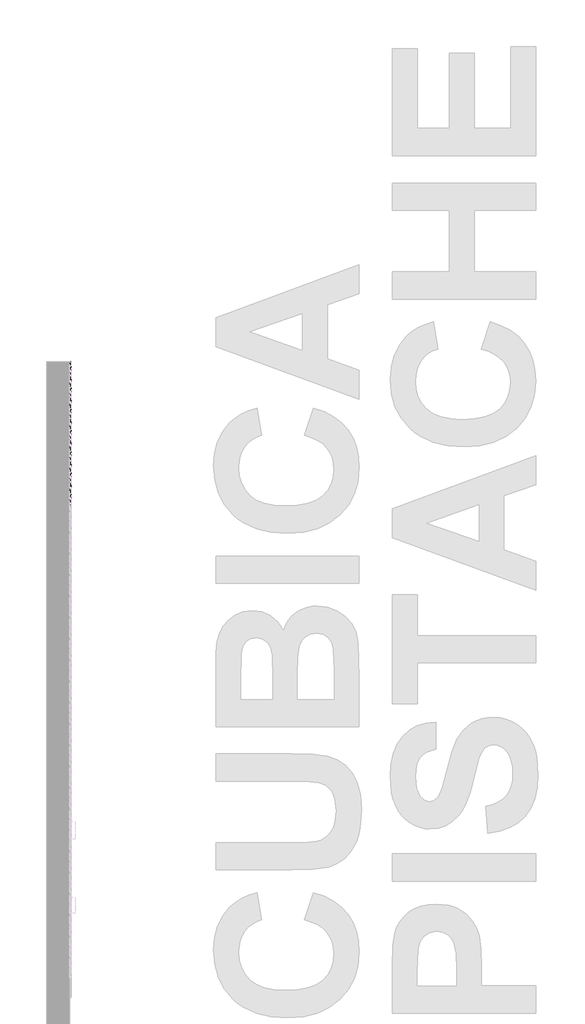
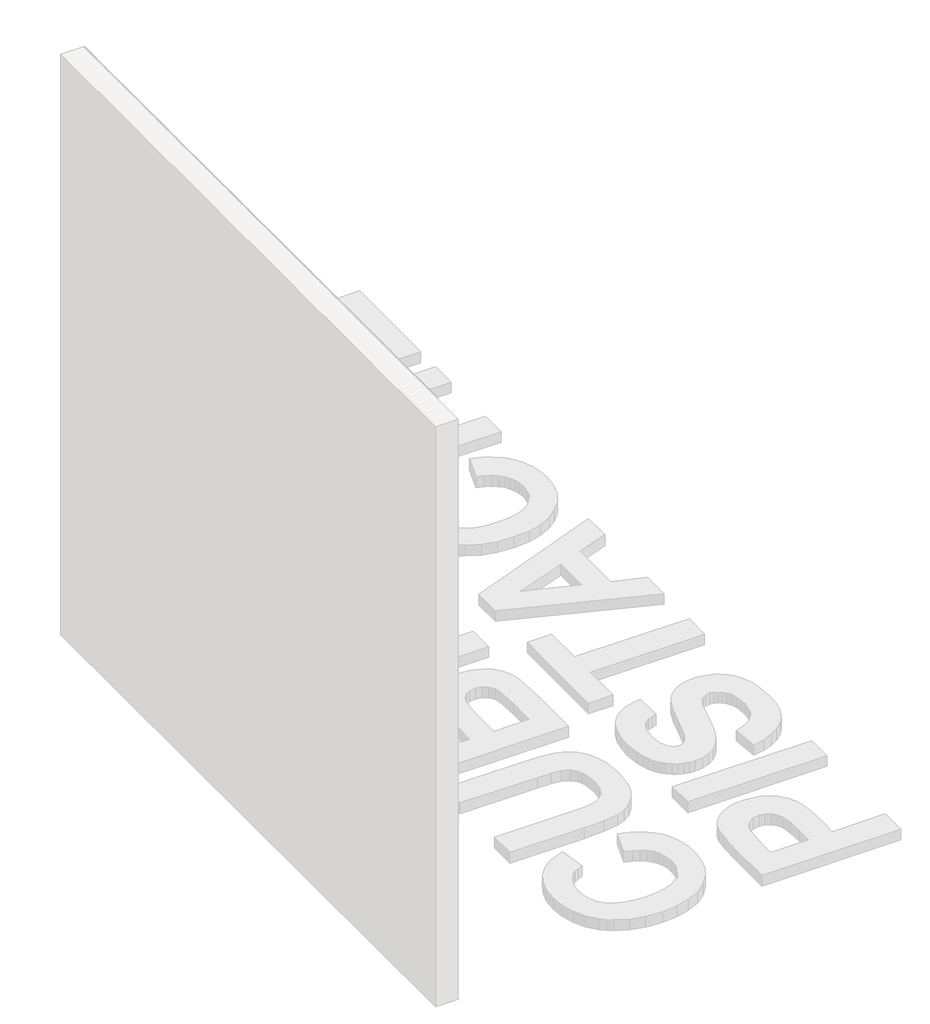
# One storey, part 94 of 121: 143 proxies.
"""IFC4 building model written with IfcOpenShell, lengths in millimetres."""

from ifc_helpers import new_model, si_unit, origin, place, context, project, spatial, transform, mapped, element, save
from components import generic_models_b2b2c5c1, generic_models_9bf73f6f, generic_models_5d175859, generic_models_336a48c1, generic_models_3c04e8e5, generic_models_0bb79e7c, generic_models_61989c10

model = new_model("IFC4")

# Units and contexts
model_context = context("Model", 3, world=origin())
ifc_project = project(units=[si_unit("LENGTHUNIT", "METRE", prefix="MILLI")], contexts=[model_context])

# Site, building, storey
site = spatial("IfcSite", under=ifc_project)
building = spatial("IfcBuilding", under=site)
storey = spatial("IfcBuildingStorey", under=building, Name="PORTOBELLO - SHOWROOM", Elevation=0.0)

# Proxies
placement = place(None, origin())
generic_models_shape = generic_models_b2b2c5c1(model_context)
element("IfcBuildingElementProxy", 1, Name="PBSHOP - CUBICA PISTACHE 4,8X8,3 : CUBICA PISTACHE - POSIÇÃO 01", ObjectType="PBSHOP - CUBICA PISTACHE 4,8X8,3 : CUBICA PISTACHE - POSIÇÃO 01", at=placement, inside=storey, context=model_context, shape_type="MappedRepresentation", body=[
    mapped(generic_models_shape, transform((150369.5341846, 15022.109842, 907.7031889), x_axis=(0.0, 1.0, 0.0), y_axis=(0.0, 0.0, 1.0), z_axis=(1.0, 0.0, 0.0))),
])
element("IfcBuildingElementProxy", 2, Name="PBSHOP - CUBICA PISTACHE 4,8X8,3 : CUBICA PISTACHE - POSIÇÃO 01", ObjectType="PBSHOP - CUBICA PISTACHE 4,8X8,3 : CUBICA PISTACHE - POSIÇÃO 01", at=placement, inside=storey, context=model_context, shape_type="MappedRepresentation", body=[
    mapped(generic_models_shape, transform((150369.5341846, 15112.9491113, 907.7031889), x_axis=(0.0, 1.0, 0.0), y_axis=(0.0, 0.0, 1.0), z_axis=(1.0, 0.0, 0.0))),
])
element("IfcBuildingElementProxy", 3, Name="PBSHOP - CUBICA PISTACHE 4,8X8,3 : CUBICA PISTACHE - POSIÇÃO 01", ObjectType="PBSHOP - CUBICA PISTACHE 4,8X8,3 : CUBICA PISTACHE - POSIÇÃO 01", at=placement, inside=storey, context=model_context, shape_type="MappedRepresentation", body=[
    mapped(generic_models_shape, transform((150369.5341846, 15203.7883805, 907.7031889), x_axis=(0.0, 1.0, 0.0), y_axis=(0.0, 0.0, 1.0), z_axis=(1.0, 0.0, 0.0))),
])
element("IfcBuildingElementProxy", 4, Name="PBSHOP - CUBICA PISTACHE 4,8X8,3 : CUBICA PISTACHE - POSIÇÃO 01", ObjectType="PBSHOP - CUBICA PISTACHE 4,8X8,3 : CUBICA PISTACHE - POSIÇÃO 01", at=placement, inside=storey, context=model_context, shape_type="MappedRepresentation", body=[
    mapped(generic_models_shape, transform((150369.5341846, 15294.6276498, 907.7031889), x_axis=(0.0, 1.0, 0.0), y_axis=(0.0, 0.0, 1.0), z_axis=(1.0, 0.0, 0.0))),
])
element("IfcBuildingElementProxy", 5, Name="PBSHOP - CUBICA PISTACHE 4,8X8,3 : CUBICA PISTACHE - POSIÇÃO 01", ObjectType="PBSHOP - CUBICA PISTACHE 4,8X8,3 : CUBICA PISTACHE - POSIÇÃO 01", at=placement, inside=storey, context=model_context, shape_type="MappedRepresentation", body=[
    mapped(generic_models_shape, transform((150369.5341846, 15385.466919, 907.7031889), x_axis=(0.0, 1.0, 0.0), y_axis=(0.0, 0.0, 1.0), z_axis=(1.0, 0.0, 0.0))),
])
element("IfcBuildingElementProxy", 6, Name="PBSHOP - CUBICA PISTACHE 4,8X8,3 : CUBICA PISTACHE - POSIÇÃO 01", ObjectType="PBSHOP - CUBICA PISTACHE 4,8X8,3 : CUBICA PISTACHE - POSIÇÃO 01", at=placement, inside=storey, context=model_context, shape_type="MappedRepresentation", body=[
    mapped(generic_models_shape, transform((150369.5341846, 15476.3061883, 907.7031889), x_axis=(0.0, 1.0, 0.0), y_axis=(0.0, 0.0, 1.0), z_axis=(1.0, 0.0, 0.0))),
])
element("IfcBuildingElementProxy", 7, Name="PBSHOP - CUBICA PISTACHE 4,8X8,3 : CUBICA PISTACHE - POSIÇÃO 01", ObjectType="PBSHOP - CUBICA PISTACHE 4,8X8,3 : CUBICA PISTACHE - POSIÇÃO 01", at=placement, inside=storey, context=model_context, shape_type="MappedRepresentation", body=[
    mapped(generic_models_shape, transform((150369.5341846, 15567.1454575, 907.7031889), x_axis=(0.0, 1.0, 0.0), y_axis=(0.0, 0.0, 1.0), z_axis=(1.0, 0.0, 0.0))),
])
element("IfcBuildingElementProxy", 8, Name="PBSHOP - CUBICA PISTACHE 4,8X8,3 : CUBICA PISTACHE - POSIÇÃO 01", ObjectType="PBSHOP - CUBICA PISTACHE 4,8X8,3 : CUBICA PISTACHE - POSIÇÃO 01", at=placement, inside=storey, context=model_context, shape_type="MappedRepresentation", body=[
    mapped(generic_models_shape, transform((150369.5341846, 15067.5294767, 986.6378273), x_axis=(0.0, 1.0, 0.0), y_axis=(0.0, 0.0, 1.0), z_axis=(1.0, 0.0, 0.0))),
])
element("IfcBuildingElementProxy", 9, Name="PBSHOP - CUBICA PISTACHE 4,8X8,3 : CUBICA PISTACHE - POSIÇÃO 01", ObjectType="PBSHOP - CUBICA PISTACHE 4,8X8,3 : CUBICA PISTACHE - POSIÇÃO 01", at=placement, inside=storey, context=model_context, shape_type="MappedRepresentation", body=[
    mapped(generic_models_shape, transform((150369.5341846, 15158.3687459, 986.6378273), x_axis=(0.0, 1.0, 0.0), y_axis=(0.0, 0.0, 1.0), z_axis=(1.0, 0.0, 0.0))),
])
element("IfcBuildingElementProxy", 10, Name="PBSHOP - CUBICA PISTACHE 4,8X8,3 : CUBICA PISTACHE - POSIÇÃO 01", ObjectType="PBSHOP - CUBICA PISTACHE 4,8X8,3 : CUBICA PISTACHE - POSIÇÃO 01", at=placement, inside=storey, context=model_context, shape_type="MappedRepresentation", body=[
    mapped(generic_models_shape, transform((150369.5341846, 15249.2080152, 986.6378273), x_axis=(0.0, 1.0, 0.0), y_axis=(0.0, 0.0, 1.0), z_axis=(1.0, 0.0, 0.0))),
])
element("IfcBuildingElementProxy", 11, Name="PBSHOP - CUBICA PISTACHE 4,8X8,3 : CUBICA PISTACHE - POSIÇÃO 01", ObjectType="PBSHOP - CUBICA PISTACHE 4,8X8,3 : CUBICA PISTACHE - POSIÇÃO 01", at=placement, inside=storey, context=model_context, shape_type="MappedRepresentation", body=[
    mapped(generic_models_shape, transform((150369.5341846, 15340.0472844, 986.6378273), x_axis=(0.0, 1.0, 0.0), y_axis=(0.0, 0.0, 1.0), z_axis=(1.0, 0.0, 0.0))),
])
element("IfcBuildingElementProxy", 12, Name="PBSHOP - CUBICA PISTACHE 4,8X8,3 : CUBICA PISTACHE - POSIÇÃO 01", ObjectType="PBSHOP - CUBICA PISTACHE 4,8X8,3 : CUBICA PISTACHE - POSIÇÃO 01", at=placement, inside=storey, context=model_context, shape_type="MappedRepresentation", body=[
    mapped(generic_models_shape, transform((150369.5341846, 15430.8865536, 986.6378273), x_axis=(0.0, 1.0, 0.0), y_axis=(0.0, 0.0, 1.0), z_axis=(1.0, 0.0, 0.0))),
])
element("IfcBuildingElementProxy", 13, Name="PBSHOP - CUBICA PISTACHE 4,8X8,3 : CUBICA PISTACHE - POSIÇÃO 01", ObjectType="PBSHOP - CUBICA PISTACHE 4,8X8,3 : CUBICA PISTACHE - POSIÇÃO 01", at=placement, inside=storey, context=model_context, shape_type="MappedRepresentation", body=[
    mapped(generic_models_shape, transform((150369.5341846, 15521.7258229, 986.6378273), x_axis=(0.0, 1.0, 0.0), y_axis=(0.0, 0.0, 1.0), z_axis=(1.0, 0.0, 0.0))),
])
element("IfcBuildingElementProxy", 14, Name="PBSHOP - CUBICA PISTACHE 4,8X8,3 : CUBICA PISTACHE - POSIÇÃO 01", ObjectType="PBSHOP - CUBICA PISTACHE 4,8X8,3 : CUBICA PISTACHE - POSIÇÃO 01", at=placement, inside=storey, context=model_context, shape_type="MappedRepresentation", body=[
    mapped(generic_models_shape, transform((150369.5341846, 15022.109842, 1065.5724657), x_axis=(0.0, 1.0, 0.0), y_axis=(0.0, 0.0, 1.0), z_axis=(1.0, 0.0, 0.0))),
])
element("IfcBuildingElementProxy", 15, Name="PBSHOP - CUBICA PISTACHE 4,8X8,3 : CUBICA PISTACHE - POSIÇÃO 01", ObjectType="PBSHOP - CUBICA PISTACHE 4,8X8,3 : CUBICA PISTACHE - POSIÇÃO 01", at=placement, inside=storey, context=model_context, shape_type="MappedRepresentation", body=[
    mapped(generic_models_shape, transform((150369.5341846, 15112.9491113, 1065.5724657), x_axis=(0.0, 1.0, 0.0), y_axis=(0.0, 0.0, 1.0), z_axis=(1.0, 0.0, 0.0))),
])
element("IfcBuildingElementProxy", 16, Name="PBSHOP - CUBICA PISTACHE 4,8X8,3 : CUBICA PISTACHE - POSIÇÃO 01", ObjectType="PBSHOP - CUBICA PISTACHE 4,8X8,3 : CUBICA PISTACHE - POSIÇÃO 01", at=placement, inside=storey, context=model_context, shape_type="MappedRepresentation", body=[
    mapped(generic_models_shape, transform((150369.5341846, 15203.7883805, 1065.5724657), x_axis=(0.0, 1.0, 0.0), y_axis=(0.0, 0.0, 1.0), z_axis=(1.0, 0.0, 0.0))),
])
element("IfcBuildingElementProxy", 17, Name="PBSHOP - CUBICA PISTACHE 4,8X8,3 : CUBICA PISTACHE - POSIÇÃO 01", ObjectType="PBSHOP - CUBICA PISTACHE 4,8X8,3 : CUBICA PISTACHE - POSIÇÃO 01", at=placement, inside=storey, context=model_context, shape_type="MappedRepresentation", body=[
    mapped(generic_models_shape, transform((150369.5341846, 15294.6276498, 1065.5724657), x_axis=(0.0, 1.0, 0.0), y_axis=(0.0, 0.0, 1.0), z_axis=(1.0, 0.0, 0.0))),
])
element("IfcBuildingElementProxy", 18, Name="PBSHOP - CUBICA PISTACHE 4,8X8,3 : CUBICA PISTACHE - POSIÇÃO 01", ObjectType="PBSHOP - CUBICA PISTACHE 4,8X8,3 : CUBICA PISTACHE - POSIÇÃO 01", at=placement, inside=storey, context=model_context, shape_type="MappedRepresentation", body=[
    mapped(generic_models_shape, transform((150369.5341846, 15385.466919, 1065.5724657), x_axis=(0.0, 1.0, 0.0), y_axis=(0.0, 0.0, 1.0), z_axis=(1.0, 0.0, 0.0))),
])
element("IfcBuildingElementProxy", 19, Name="PBSHOP - CUBICA PISTACHE 4,8X8,3 : CUBICA PISTACHE - POSIÇÃO 01", ObjectType="PBSHOP - CUBICA PISTACHE 4,8X8,3 : CUBICA PISTACHE - POSIÇÃO 01", at=placement, inside=storey, context=model_context, shape_type="MappedRepresentation", body=[
    mapped(generic_models_shape, transform((150369.5341846, 15476.3061883, 1065.5724657), x_axis=(0.0, 1.0, 0.0), y_axis=(0.0, 0.0, 1.0), z_axis=(1.0, 0.0, 0.0))),
])
element("IfcBuildingElementProxy", 20, Name="PBSHOP - CUBICA PISTACHE 4,8X8,3 : CUBICA PISTACHE - POSIÇÃO 01", ObjectType="PBSHOP - CUBICA PISTACHE 4,8X8,3 : CUBICA PISTACHE - POSIÇÃO 01", at=placement, inside=storey, context=model_context, shape_type="MappedRepresentation", body=[
    mapped(generic_models_shape, transform((150369.5341846, 15567.1454575, 1065.5724657), x_axis=(0.0, 1.0, 0.0), y_axis=(0.0, 0.0, 1.0), z_axis=(1.0, 0.0, 0.0))),
])
element("IfcBuildingElementProxy", 21, Name="PBSHOP - CUBICA PISTACHE 4,8X8,3 : CUBICA PISTACHE - POSIÇÃO 01", ObjectType="PBSHOP - CUBICA PISTACHE 4,8X8,3 : CUBICA PISTACHE - POSIÇÃO 01", at=placement, inside=storey, context=model_context, shape_type="MappedRepresentation", body=[
    mapped(generic_models_shape, transform((150369.5341846, 15067.5294767, 1144.507104), x_axis=(0.0, 1.0, 0.0), y_axis=(0.0, 0.0, 1.0), z_axis=(1.0, 0.0, 0.0))),
])
element("IfcBuildingElementProxy", 22, Name="PBSHOP - CUBICA PISTACHE 4,8X8,3 : CUBICA PISTACHE - POSIÇÃO 01", ObjectType="PBSHOP - CUBICA PISTACHE 4,8X8,3 : CUBICA PISTACHE - POSIÇÃO 01", at=placement, inside=storey, context=model_context, shape_type="MappedRepresentation", body=[
    mapped(generic_models_shape, transform((150369.5341846, 15158.3687459, 1144.507104), x_axis=(0.0, 1.0, 0.0), y_axis=(0.0, 0.0, 1.0), z_axis=(1.0, 0.0, 0.0))),
])
element("IfcBuildingElementProxy", 23, Name="PBSHOP - CUBICA PISTACHE 4,8X8,3 : CUBICA PISTACHE - POSIÇÃO 01", ObjectType="PBSHOP - CUBICA PISTACHE 4,8X8,3 : CUBICA PISTACHE - POSIÇÃO 01", at=placement, inside=storey, context=model_context, shape_type="MappedRepresentation", body=[
    mapped(generic_models_shape, transform((150369.5341846, 15249.2080152, 1144.507104), x_axis=(0.0, 1.0, 0.0), y_axis=(0.0, 0.0, 1.0), z_axis=(1.0, 0.0, 0.0))),
])
element("IfcBuildingElementProxy", 24, Name="PBSHOP - CUBICA PISTACHE 4,8X8,3 : CUBICA PISTACHE - POSIÇÃO 01", ObjectType="PBSHOP - CUBICA PISTACHE 4,8X8,3 : CUBICA PISTACHE - POSIÇÃO 01", at=placement, inside=storey, context=model_context, shape_type="MappedRepresentation", body=[
    mapped(generic_models_shape, transform((150369.5341846, 15340.0472844, 1144.507104), x_axis=(0.0, 1.0, 0.0), y_axis=(0.0, 0.0, 1.0), z_axis=(1.0, 0.0, 0.0))),
])
element("IfcBuildingElementProxy", 25, Name="PBSHOP - CUBICA PISTACHE 4,8X8,3 : CUBICA PISTACHE - POSIÇÃO 01", ObjectType="PBSHOP - CUBICA PISTACHE 4,8X8,3 : CUBICA PISTACHE - POSIÇÃO 01", at=placement, inside=storey, context=model_context, shape_type="MappedRepresentation", body=[
    mapped(generic_models_shape, transform((150369.5341846, 15430.8865536, 1144.507104), x_axis=(0.0, 1.0, 0.0), y_axis=(0.0, 0.0, 1.0), z_axis=(1.0, 0.0, 0.0))),
])
element("IfcBuildingElementProxy", 26, Name="PBSHOP - CUBICA PISTACHE 4,8X8,3 : CUBICA PISTACHE - POSIÇÃO 01", ObjectType="PBSHOP - CUBICA PISTACHE 4,8X8,3 : CUBICA PISTACHE - POSIÇÃO 01", at=placement, inside=storey, context=model_context, shape_type="MappedRepresentation", body=[
    mapped(generic_models_shape, transform((150369.5341846, 15521.7258229, 1144.507104), x_axis=(0.0, 1.0, 0.0), y_axis=(0.0, 0.0, 1.0), z_axis=(1.0, 0.0, 0.0))),
])
element("IfcBuildingElementProxy", 27, Name="PBSHOP - CUBICA PISTACHE 4,8X8,3 : CUBICA PISTACHE - POSIÇÃO 01", ObjectType="PBSHOP - CUBICA PISTACHE 4,8X8,3 : CUBICA PISTACHE - POSIÇÃO 01", at=placement, inside=storey, context=model_context, shape_type="MappedRepresentation", body=[
    mapped(generic_models_shape, transform((150369.5341846, 15022.109842, 1223.4417424), x_axis=(0.0, 1.0, 0.0), y_axis=(0.0, 0.0, 1.0), z_axis=(1.0, 0.0, 0.0))),
])
element("IfcBuildingElementProxy", 28, Name="PBSHOP - CUBICA PISTACHE 4,8X8,3 : CUBICA PISTACHE - POSIÇÃO 01", ObjectType="PBSHOP - CUBICA PISTACHE 4,8X8,3 : CUBICA PISTACHE - POSIÇÃO 01", at=placement, inside=storey, context=model_context, shape_type="MappedRepresentation", body=[
    mapped(generic_models_shape, transform((150369.5341846, 15112.9491113, 1223.4417424), x_axis=(0.0, 1.0, 0.0), y_axis=(0.0, 0.0, 1.0), z_axis=(1.0, 0.0, 0.0))),
])
element("IfcBuildingElementProxy", 29, Name="PBSHOP - CUBICA PISTACHE 4,8X8,3 : CUBICA PISTACHE - POSIÇÃO 01", ObjectType="PBSHOP - CUBICA PISTACHE 4,8X8,3 : CUBICA PISTACHE - POSIÇÃO 01", at=placement, inside=storey, context=model_context, shape_type="MappedRepresentation", body=[
    mapped(generic_models_shape, transform((150369.5341846, 15203.7883805, 1223.4417424), x_axis=(0.0, 1.0, 0.0), y_axis=(0.0, 0.0, 1.0), z_axis=(1.0, 0.0, 0.0))),
])
element("IfcBuildingElementProxy", 30, Name="PBSHOP - CUBICA PISTACHE 4,8X8,3 : CUBICA PISTACHE - POSIÇÃO 01", ObjectType="PBSHOP - CUBICA PISTACHE 4,8X8,3 : CUBICA PISTACHE - POSIÇÃO 01", at=placement, inside=storey, context=model_context, shape_type="MappedRepresentation", body=[
    mapped(generic_models_shape, transform((150369.5341846, 15294.6276498, 1223.4417424), x_axis=(0.0, 1.0, 0.0), y_axis=(0.0, 0.0, 1.0), z_axis=(1.0, 0.0, 0.0))),
])
element("IfcBuildingElementProxy", 31, Name="PBSHOP - CUBICA PISTACHE 4,8X8,3 : CUBICA PISTACHE - POSIÇÃO 01", ObjectType="PBSHOP - CUBICA PISTACHE 4,8X8,3 : CUBICA PISTACHE - POSIÇÃO 01", at=placement, inside=storey, context=model_context, shape_type="MappedRepresentation", body=[
    mapped(generic_models_shape, transform((150369.5341846, 15385.466919, 1223.4417424), x_axis=(0.0, 1.0, 0.0), y_axis=(0.0, 0.0, 1.0), z_axis=(1.0, 0.0, 0.0))),
])
element("IfcBuildingElementProxy", 32, Name="PBSHOP - CUBICA PISTACHE 4,8X8,3 : CUBICA PISTACHE - POSIÇÃO 01", ObjectType="PBSHOP - CUBICA PISTACHE 4,8X8,3 : CUBICA PISTACHE - POSIÇÃO 01", at=placement, inside=storey, context=model_context, shape_type="MappedRepresentation", body=[
    mapped(generic_models_shape, transform((150369.5341846, 15476.3061883, 1223.4417424), x_axis=(0.0, 1.0, 0.0), y_axis=(0.0, 0.0, 1.0), z_axis=(1.0, 0.0, 0.0))),
])
element("IfcBuildingElementProxy", 33, Name="PBSHOP - CUBICA PISTACHE 4,8X8,3 : CUBICA PISTACHE - POSIÇÃO 01", ObjectType="PBSHOP - CUBICA PISTACHE 4,8X8,3 : CUBICA PISTACHE - POSIÇÃO 01", at=placement, inside=storey, context=model_context, shape_type="MappedRepresentation", body=[
    mapped(generic_models_shape, transform((150369.5341846, 15567.1454575, 1223.4417424), x_axis=(0.0, 1.0, 0.0), y_axis=(0.0, 0.0, 1.0), z_axis=(1.0, 0.0, 0.0))),
])
element("IfcBuildingElementProxy", 34, Name="PBSHOP - CUBICA PISTACHE 4,8X8,3 : CUBICA PISTACHE - POSIÇÃO 01", ObjectType="PBSHOP - CUBICA PISTACHE 4,8X8,3 : CUBICA PISTACHE - POSIÇÃO 01", at=placement, inside=storey, context=model_context, shape_type="MappedRepresentation", body=[
    mapped(generic_models_shape, transform((150369.5341846, 15067.5294767, 1302.3763808), x_axis=(0.0, 1.0, 0.0), y_axis=(0.0, 0.0, 1.0), z_axis=(1.0, 0.0, 0.0))),
])
element("IfcBuildingElementProxy", 35, Name="PBSHOP - CUBICA PISTACHE 4,8X8,3 : CUBICA PISTACHE - POSIÇÃO 01", ObjectType="PBSHOP - CUBICA PISTACHE 4,8X8,3 : CUBICA PISTACHE - POSIÇÃO 01", at=placement, inside=storey, context=model_context, shape_type="MappedRepresentation", body=[
    mapped(generic_models_shape, transform((150369.5341846, 15158.3687459, 1302.3763808), x_axis=(0.0, 1.0, 0.0), y_axis=(0.0, 0.0, 1.0), z_axis=(1.0, 0.0, 0.0))),
])
element("IfcBuildingElementProxy", 36, Name="PBSHOP - CUBICA PISTACHE 4,8X8,3 : CUBICA PISTACHE - POSIÇÃO 01", ObjectType="PBSHOP - CUBICA PISTACHE 4,8X8,3 : CUBICA PISTACHE - POSIÇÃO 01", at=placement, inside=storey, context=model_context, shape_type="MappedRepresentation", body=[
    mapped(generic_models_shape, transform((150369.5341846, 15249.2080152, 1302.3763808), x_axis=(0.0, 1.0, 0.0), y_axis=(0.0, 0.0, 1.0), z_axis=(1.0, 0.0, 0.0))),
])
element("IfcBuildingElementProxy", 37, Name="PBSHOP - CUBICA PISTACHE 4,8X8,3 : CUBICA PISTACHE - POSIÇÃO 01", ObjectType="PBSHOP - CUBICA PISTACHE 4,8X8,3 : CUBICA PISTACHE - POSIÇÃO 01", at=placement, inside=storey, context=model_context, shape_type="MappedRepresentation", body=[
    mapped(generic_models_shape, transform((150369.5341846, 15340.0472844, 1302.3763808), x_axis=(0.0, 1.0, 0.0), y_axis=(0.0, 0.0, 1.0), z_axis=(1.0, 0.0, 0.0))),
])
element("IfcBuildingElementProxy", 38, Name="PBSHOP - CUBICA PISTACHE 4,8X8,3 : CUBICA PISTACHE - POSIÇÃO 01", ObjectType="PBSHOP - CUBICA PISTACHE 4,8X8,3 : CUBICA PISTACHE - POSIÇÃO 01", at=placement, inside=storey, context=model_context, shape_type="MappedRepresentation", body=[
    mapped(generic_models_shape, transform((150369.5341846, 15430.8865536, 1302.3763808), x_axis=(0.0, 1.0, 0.0), y_axis=(0.0, 0.0, 1.0), z_axis=(1.0, 0.0, 0.0))),
])
element("IfcBuildingElementProxy", 39, Name="PBSHOP - CUBICA PISTACHE 4,8X8,3 : CUBICA PISTACHE - POSIÇÃO 01", ObjectType="PBSHOP - CUBICA PISTACHE 4,8X8,3 : CUBICA PISTACHE - POSIÇÃO 01", at=placement, inside=storey, context=model_context, shape_type="MappedRepresentation", body=[
    mapped(generic_models_shape, transform((150369.5341846, 15521.7258229, 1302.3763808), x_axis=(0.0, 1.0, 0.0), y_axis=(0.0, 0.0, 1.0), z_axis=(1.0, 0.0, 0.0))),
])
element("IfcBuildingElementProxy", 40, Name="PBSHOP - CUBICA PISTACHE 4,8X8,3 : CUBICA PISTACHE - POSIÇÃO 01", ObjectType="PBSHOP - CUBICA PISTACHE 4,8X8,3 : CUBICA PISTACHE - POSIÇÃO 01", at=placement, inside=storey, context=model_context, shape_type="MappedRepresentation", body=[
    mapped(generic_models_shape, transform((150369.5341846, 15022.109842, 1381.3110192), x_axis=(0.0, 1.0, 0.0), y_axis=(0.0, 0.0, 1.0), z_axis=(1.0, 0.0, 0.0))),
])
element("IfcBuildingElementProxy", 41, Name="PBSHOP - CUBICA PISTACHE 4,8X8,3 : CUBICA PISTACHE - POSIÇÃO 01", ObjectType="PBSHOP - CUBICA PISTACHE 4,8X8,3 : CUBICA PISTACHE - POSIÇÃO 01", at=placement, inside=storey, context=model_context, shape_type="MappedRepresentation", body=[
    mapped(generic_models_shape, transform((150369.5341846, 15112.9491113, 1381.3110192), x_axis=(0.0, 1.0, 0.0), y_axis=(0.0, 0.0, 1.0), z_axis=(1.0, 0.0, 0.0))),
])
element("IfcBuildingElementProxy", 42, Name="PBSHOP - CUBICA PISTACHE 4,8X8,3 : CUBICA PISTACHE - POSIÇÃO 01", ObjectType="PBSHOP - CUBICA PISTACHE 4,8X8,3 : CUBICA PISTACHE - POSIÇÃO 01", at=placement, inside=storey, context=model_context, shape_type="MappedRepresentation", body=[
    mapped(generic_models_shape, transform((150369.5341846, 15203.7883805, 1381.3110192), x_axis=(0.0, 1.0, 0.0), y_axis=(0.0, 0.0, 1.0), z_axis=(1.0, 0.0, 0.0))),
])
element("IfcBuildingElementProxy", 43, Name="PBSHOP - CUBICA PISTACHE 4,8X8,3 : CUBICA PISTACHE - POSIÇÃO 01", ObjectType="PBSHOP - CUBICA PISTACHE 4,8X8,3 : CUBICA PISTACHE - POSIÇÃO 01", at=placement, inside=storey, context=model_context, shape_type="MappedRepresentation", body=[
    mapped(generic_models_shape, transform((150369.5341846, 15294.6276498, 1381.3110192), x_axis=(0.0, 1.0, 0.0), y_axis=(0.0, 0.0, 1.0), z_axis=(1.0, 0.0, 0.0))),
])
element("IfcBuildingElementProxy", 44, Name="PBSHOP - CUBICA PISTACHE 4,8X8,3 : CUBICA PISTACHE - POSIÇÃO 01", ObjectType="PBSHOP - CUBICA PISTACHE 4,8X8,3 : CUBICA PISTACHE - POSIÇÃO 01", at=placement, inside=storey, context=model_context, shape_type="MappedRepresentation", body=[
    mapped(generic_models_shape, transform((150369.5341846, 15385.466919, 1381.3110192), x_axis=(0.0, 1.0, 0.0), y_axis=(0.0, 0.0, 1.0), z_axis=(1.0, 0.0, 0.0))),
])
element("IfcBuildingElementProxy", 45, Name="PBSHOP - CUBICA PISTACHE 4,8X8,3 : CUBICA PISTACHE - POSIÇÃO 01", ObjectType="PBSHOP - CUBICA PISTACHE 4,8X8,3 : CUBICA PISTACHE - POSIÇÃO 01", at=placement, inside=storey, context=model_context, shape_type="MappedRepresentation", body=[
    mapped(generic_models_shape, transform((150369.5341846, 15476.3061883, 1381.3110192), x_axis=(0.0, 1.0, 0.0), y_axis=(0.0, 0.0, 1.0), z_axis=(1.0, 0.0, 0.0))),
])
generic_models_2_shape = generic_models_9bf73f6f(model_context)
element("IfcBuildingElementProxy", 46, Name="PBSHOP - CUBICA PISTACHE 4,8X8,3 : CUBICA PISTACHE - POSIÇÃO 03", ObjectType="PBSHOP - CUBICA PISTACHE 4,8X8,3 : CUBICA PISTACHE - POSIÇÃO 03", at=placement, inside=storey, context=model_context, shape_type="MappedRepresentation", body=[
    mapped(generic_models_2_shape, transform((150369.5341846, 15135.6610878, 789.2600209), x_axis=(0.0, 1.0, 0.0), y_axis=(0.0, 0.0, 1.0), z_axis=(1.0, 0.0, 0.0))),
])
element("IfcBuildingElementProxy", 47, Name="PBSHOP - CUBICA PISTACHE 4,8X8,3 : CUBICA PISTACHE - POSIÇÃO 03", ObjectType="PBSHOP - CUBICA PISTACHE 4,8X8,3 : CUBICA PISTACHE - POSIÇÃO 03", at=placement, inside=storey, context=model_context, shape_type="MappedRepresentation", body=[
    mapped(generic_models_2_shape, transform((150369.5341846, 15226.500357, 789.2600209), x_axis=(0.0, 1.0, 0.0), y_axis=(0.0, 0.0, 1.0), z_axis=(1.0, 0.0, 0.0))),
])
element("IfcBuildingElementProxy", 48, Name="PBSHOP - CUBICA PISTACHE 4,8X8,3 : CUBICA PISTACHE - POSIÇÃO 03", ObjectType="PBSHOP - CUBICA PISTACHE 4,8X8,3 : CUBICA PISTACHE - POSIÇÃO 03", at=placement, inside=storey, context=model_context, shape_type="MappedRepresentation", body=[
    mapped(generic_models_2_shape, transform((150369.5341846, 15317.3396263, 789.2600209), x_axis=(0.0, 1.0, 0.0), y_axis=(0.0, 0.0, 1.0), z_axis=(1.0, 0.0, 0.0))),
])
element("IfcBuildingElementProxy", 49, Name="PBSHOP - CUBICA PISTACHE 4,8X8,3 : CUBICA PISTACHE - POSIÇÃO 03", ObjectType="PBSHOP - CUBICA PISTACHE 4,8X8,3 : CUBICA PISTACHE - POSIÇÃO 03", at=placement, inside=storey, context=model_context, shape_type="MappedRepresentation", body=[
    mapped(generic_models_2_shape, transform((150369.5341846, 15408.1788955, 789.2600209), x_axis=(0.0, 1.0, 0.0), y_axis=(0.0, 0.0, 1.0), z_axis=(1.0, 0.0, 0.0))),
])
element("IfcBuildingElementProxy", 50, Name="PBSHOP - CUBICA PISTACHE 4,8X8,3 : CUBICA PISTACHE - POSIÇÃO 03", ObjectType="PBSHOP - CUBICA PISTACHE 4,8X8,3 : CUBICA PISTACHE - POSIÇÃO 03", at=placement, inside=storey, context=model_context, shape_type="MappedRepresentation", body=[
    mapped(generic_models_2_shape, transform((150369.5341846, 15499.0181647, 789.2600209), x_axis=(0.0, 1.0, 0.0), y_axis=(0.0, 0.0, 1.0), z_axis=(1.0, 0.0, 0.0))),
])
element("IfcBuildingElementProxy", 51, Name="PBSHOP - CUBICA PISTACHE 4,8X8,3 : CUBICA PISTACHE - POSIÇÃO 03", ObjectType="PBSHOP - CUBICA PISTACHE 4,8X8,3 : CUBICA PISTACHE - POSIÇÃO 03", at=placement, inside=storey, context=model_context, shape_type="MappedRepresentation", body=[
    mapped(generic_models_2_shape, transform((150369.5341846, 15090.2414531, 868.1946593), x_axis=(0.0, 1.0, 0.0), y_axis=(0.0, 0.0, 1.0), z_axis=(1.0, 0.0, 0.0))),
])
element("IfcBuildingElementProxy", 52, Name="PBSHOP - CUBICA PISTACHE 4,8X8,3 : CUBICA PISTACHE - POSIÇÃO 03", ObjectType="PBSHOP - CUBICA PISTACHE 4,8X8,3 : CUBICA PISTACHE - POSIÇÃO 03", at=placement, inside=storey, context=model_context, shape_type="MappedRepresentation", body=[
    mapped(generic_models_2_shape, transform((150369.5341846, 15181.0807224, 868.1946593), x_axis=(0.0, 1.0, 0.0), y_axis=(0.0, 0.0, 1.0), z_axis=(1.0, 0.0, 0.0))),
])
element("IfcBuildingElementProxy", 53, Name="PBSHOP - CUBICA PISTACHE 4,8X8,3 : CUBICA PISTACHE - POSIÇÃO 03", ObjectType="PBSHOP - CUBICA PISTACHE 4,8X8,3 : CUBICA PISTACHE - POSIÇÃO 03", at=placement, inside=storey, context=model_context, shape_type="MappedRepresentation", body=[
    mapped(generic_models_2_shape, transform((150369.5341846, 15271.9199916, 868.1946593), x_axis=(0.0, 1.0, 0.0), y_axis=(0.0, 0.0, 1.0), z_axis=(1.0, 0.0, 0.0))),
])
element("IfcBuildingElementProxy", 54, Name="PBSHOP - CUBICA PISTACHE 4,8X8,3 : CUBICA PISTACHE - POSIÇÃO 03", ObjectType="PBSHOP - CUBICA PISTACHE 4,8X8,3 : CUBICA PISTACHE - POSIÇÃO 03", at=placement, inside=storey, context=model_context, shape_type="MappedRepresentation", body=[
    mapped(generic_models_2_shape, transform((150369.5341846, 15362.7592609, 868.1946593), x_axis=(0.0, 1.0, 0.0), y_axis=(0.0, 0.0, 1.0), z_axis=(1.0, 0.0, 0.0))),
])
element("IfcBuildingElementProxy", 55, Name="PBSHOP - CUBICA PISTACHE 4,8X8,3 : CUBICA PISTACHE - POSIÇÃO 03", ObjectType="PBSHOP - CUBICA PISTACHE 4,8X8,3 : CUBICA PISTACHE - POSIÇÃO 03", at=placement, inside=storey, context=model_context, shape_type="MappedRepresentation", body=[
    mapped(generic_models_2_shape, transform((150369.5341846, 15453.5985301, 868.1946593), x_axis=(0.0, 1.0, 0.0), y_axis=(0.0, 0.0, 1.0), z_axis=(1.0, 0.0, 0.0))),
])
element("IfcBuildingElementProxy", 56, Name="PBSHOP - CUBICA PISTACHE 4,8X8,3 : CUBICA PISTACHE - POSIÇÃO 03", ObjectType="PBSHOP - CUBICA PISTACHE 4,8X8,3 : CUBICA PISTACHE - POSIÇÃO 03", at=placement, inside=storey, context=model_context, shape_type="MappedRepresentation", body=[
    mapped(generic_models_2_shape, transform((150369.5341846, 15544.4377994, 868.1946593), x_axis=(0.0, 1.0, 0.0), y_axis=(0.0, 0.0, 1.0), z_axis=(1.0, 0.0, 0.0))),
])
element("IfcBuildingElementProxy", 57, Name="PBSHOP - CUBICA PISTACHE 4,8X8,3 : CUBICA PISTACHE - POSIÇÃO 03", ObjectType="PBSHOP - CUBICA PISTACHE 4,8X8,3 : CUBICA PISTACHE - POSIÇÃO 03", at=placement, inside=storey, context=model_context, shape_type="MappedRepresentation", body=[
    mapped(generic_models_2_shape, transform((150369.5341846, 15044.8218185, 947.1292977), x_axis=(0.0, 1.0, 0.0), y_axis=(0.0, 0.0, 1.0), z_axis=(1.0, 0.0, 0.0))),
])
element("IfcBuildingElementProxy", 58, Name="PBSHOP - CUBICA PISTACHE 4,8X8,3 : CUBICA PISTACHE - POSIÇÃO 03", ObjectType="PBSHOP - CUBICA PISTACHE 4,8X8,3 : CUBICA PISTACHE - POSIÇÃO 03", at=placement, inside=storey, context=model_context, shape_type="MappedRepresentation", body=[
    mapped(generic_models_2_shape, transform((150369.5341846, 15135.6610878, 947.1292977), x_axis=(0.0, 1.0, 0.0), y_axis=(0.0, 0.0, 1.0), z_axis=(1.0, 0.0, 0.0))),
])
element("IfcBuildingElementProxy", 59, Name="PBSHOP - CUBICA PISTACHE 4,8X8,3 : CUBICA PISTACHE - POSIÇÃO 03", ObjectType="PBSHOP - CUBICA PISTACHE 4,8X8,3 : CUBICA PISTACHE - POSIÇÃO 03", at=placement, inside=storey, context=model_context, shape_type="MappedRepresentation", body=[
    mapped(generic_models_2_shape, transform((150369.5341846, 15226.500357, 947.1292977), x_axis=(0.0, 1.0, 0.0), y_axis=(0.0, 0.0, 1.0), z_axis=(1.0, 0.0, 0.0))),
])
element("IfcBuildingElementProxy", 60, Name="PBSHOP - CUBICA PISTACHE 4,8X8,3 : CUBICA PISTACHE - POSIÇÃO 03", ObjectType="PBSHOP - CUBICA PISTACHE 4,8X8,3 : CUBICA PISTACHE - POSIÇÃO 03", at=placement, inside=storey, context=model_context, shape_type="MappedRepresentation", body=[
    mapped(generic_models_2_shape, transform((150369.5341846, 15317.3396263, 947.1292977), x_axis=(0.0, 1.0, 0.0), y_axis=(0.0, 0.0, 1.0), z_axis=(1.0, 0.0, 0.0))),
])
element("IfcBuildingElementProxy", 61, Name="PBSHOP - CUBICA PISTACHE 4,8X8,3 : CUBICA PISTACHE - POSIÇÃO 03", ObjectType="PBSHOP - CUBICA PISTACHE 4,8X8,3 : CUBICA PISTACHE - POSIÇÃO 03", at=placement, inside=storey, context=model_context, shape_type="MappedRepresentation", body=[
    mapped(generic_models_2_shape, transform((150369.5341846, 15408.1788955, 947.1292977), x_axis=(0.0, 1.0, 0.0), y_axis=(0.0, 0.0, 1.0), z_axis=(1.0, 0.0, 0.0))),
])
element("IfcBuildingElementProxy", 62, Name="PBSHOP - CUBICA PISTACHE 4,8X8,3 : CUBICA PISTACHE - POSIÇÃO 03", ObjectType="PBSHOP - CUBICA PISTACHE 4,8X8,3 : CUBICA PISTACHE - POSIÇÃO 03", at=placement, inside=storey, context=model_context, shape_type="MappedRepresentation", body=[
    mapped(generic_models_2_shape, transform((150369.5341846, 15499.0181647, 947.1292977), x_axis=(0.0, 1.0, 0.0), y_axis=(0.0, 0.0, 1.0), z_axis=(1.0, 0.0, 0.0))),
])
element("IfcBuildingElementProxy", 63, Name="PBSHOP - CUBICA PISTACHE 4,8X8,3 : CUBICA PISTACHE - POSIÇÃO 03", ObjectType="PBSHOP - CUBICA PISTACHE 4,8X8,3 : CUBICA PISTACHE - POSIÇÃO 03", at=placement, inside=storey, context=model_context, shape_type="MappedRepresentation", body=[
    mapped(generic_models_2_shape, transform((150369.5341846, 15090.2414531, 1026.0639361), x_axis=(0.0, 1.0, 0.0), y_axis=(0.0, 0.0, 1.0), z_axis=(1.0, 0.0, 0.0))),
])
element("IfcBuildingElementProxy", 64, Name="PBSHOP - CUBICA PISTACHE 4,8X8,3 : CUBICA PISTACHE - POSIÇÃO 03", ObjectType="PBSHOP - CUBICA PISTACHE 4,8X8,3 : CUBICA PISTACHE - POSIÇÃO 03", at=placement, inside=storey, context=model_context, shape_type="MappedRepresentation", body=[
    mapped(generic_models_2_shape, transform((150369.5341846, 15181.0807224, 1026.0639361), x_axis=(0.0, 1.0, 0.0), y_axis=(0.0, 0.0, 1.0), z_axis=(1.0, 0.0, 0.0))),
])
element("IfcBuildingElementProxy", 65, Name="PBSHOP - CUBICA PISTACHE 4,8X8,3 : CUBICA PISTACHE - POSIÇÃO 03", ObjectType="PBSHOP - CUBICA PISTACHE 4,8X8,3 : CUBICA PISTACHE - POSIÇÃO 03", at=placement, inside=storey, context=model_context, shape_type="MappedRepresentation", body=[
    mapped(generic_models_2_shape, transform((150369.5341846, 15271.9199916, 1026.0639361), x_axis=(0.0, 1.0, 0.0), y_axis=(0.0, 0.0, 1.0), z_axis=(1.0, 0.0, 0.0))),
])
element("IfcBuildingElementProxy", 66, Name="PBSHOP - CUBICA PISTACHE 4,8X8,3 : CUBICA PISTACHE - POSIÇÃO 03", ObjectType="PBSHOP - CUBICA PISTACHE 4,8X8,3 : CUBICA PISTACHE - POSIÇÃO 03", at=placement, inside=storey, context=model_context, shape_type="MappedRepresentation", body=[
    mapped(generic_models_2_shape, transform((150369.5341846, 15362.7592609, 1026.0639361), x_axis=(0.0, 1.0, 0.0), y_axis=(0.0, 0.0, 1.0), z_axis=(1.0, 0.0, 0.0))),
])
element("IfcBuildingElementProxy", 67, Name="PBSHOP - CUBICA PISTACHE 4,8X8,3 : CUBICA PISTACHE - POSIÇÃO 03", ObjectType="PBSHOP - CUBICA PISTACHE 4,8X8,3 : CUBICA PISTACHE - POSIÇÃO 03", at=placement, inside=storey, context=model_context, shape_type="MappedRepresentation", body=[
    mapped(generic_models_2_shape, transform((150369.5341846, 15453.5985301, 1026.0639361), x_axis=(0.0, 1.0, 0.0), y_axis=(0.0, 0.0, 1.0), z_axis=(1.0, 0.0, 0.0))),
])
element("IfcBuildingElementProxy", 68, Name="PBSHOP - CUBICA PISTACHE 4,8X8,3 : CUBICA PISTACHE - POSIÇÃO 03", ObjectType="PBSHOP - CUBICA PISTACHE 4,8X8,3 : CUBICA PISTACHE - POSIÇÃO 03", at=placement, inside=storey, context=model_context, shape_type="MappedRepresentation", body=[
    mapped(generic_models_2_shape, transform((150369.5341846, 15544.4377994, 1026.0639361), x_axis=(0.0, 1.0, 0.0), y_axis=(0.0, 0.0, 1.0), z_axis=(1.0, 0.0, 0.0))),
])
element("IfcBuildingElementProxy", 69, Name="PBSHOP - CUBICA PISTACHE 4,8X8,3 : CUBICA PISTACHE - POSIÇÃO 03", ObjectType="PBSHOP - CUBICA PISTACHE 4,8X8,3 : CUBICA PISTACHE - POSIÇÃO 03", at=placement, inside=storey, context=model_context, shape_type="MappedRepresentation", body=[
    mapped(generic_models_2_shape, transform((150369.5341846, 15044.8218185, 1104.9985744), x_axis=(0.0, 1.0, 0.0), y_axis=(0.0, 0.0, 1.0), z_axis=(1.0, 0.0, 0.0))),
])
element("IfcBuildingElementProxy", 70, Name="PBSHOP - CUBICA PISTACHE 4,8X8,3 : CUBICA PISTACHE - POSIÇÃO 03", ObjectType="PBSHOP - CUBICA PISTACHE 4,8X8,3 : CUBICA PISTACHE - POSIÇÃO 03", at=placement, inside=storey, context=model_context, shape_type="MappedRepresentation", body=[
    mapped(generic_models_2_shape, transform((150369.5341846, 15135.6610878, 1104.9985744), x_axis=(0.0, 1.0, 0.0), y_axis=(0.0, 0.0, 1.0), z_axis=(1.0, 0.0, 0.0))),
])
element("IfcBuildingElementProxy", 71, Name="PBSHOP - CUBICA PISTACHE 4,8X8,3 : CUBICA PISTACHE - POSIÇÃO 03", ObjectType="PBSHOP - CUBICA PISTACHE 4,8X8,3 : CUBICA PISTACHE - POSIÇÃO 03", at=placement, inside=storey, context=model_context, shape_type="MappedRepresentation", body=[
    mapped(generic_models_2_shape, transform((150369.5341846, 15226.500357, 1104.9985744), x_axis=(0.0, 1.0, 0.0), y_axis=(0.0, 0.0, 1.0), z_axis=(1.0, 0.0, 0.0))),
])
element("IfcBuildingElementProxy", 72, Name="PBSHOP - CUBICA PISTACHE 4,8X8,3 : CUBICA PISTACHE - POSIÇÃO 03", ObjectType="PBSHOP - CUBICA PISTACHE 4,8X8,3 : CUBICA PISTACHE - POSIÇÃO 03", at=placement, inside=storey, context=model_context, shape_type="MappedRepresentation", body=[
    mapped(generic_models_2_shape, transform((150369.5341846, 15317.3396263, 1104.9985744), x_axis=(0.0, 1.0, 0.0), y_axis=(0.0, 0.0, 1.0), z_axis=(1.0, 0.0, 0.0))),
])
element("IfcBuildingElementProxy", 73, Name="PBSHOP - CUBICA PISTACHE 4,8X8,3 : CUBICA PISTACHE - POSIÇÃO 03", ObjectType="PBSHOP - CUBICA PISTACHE 4,8X8,3 : CUBICA PISTACHE - POSIÇÃO 03", at=placement, inside=storey, context=model_context, shape_type="MappedRepresentation", body=[
    mapped(generic_models_2_shape, transform((150369.5341846, 15408.1788955, 1104.9985744), x_axis=(0.0, 1.0, 0.0), y_axis=(0.0, 0.0, 1.0), z_axis=(1.0, 0.0, 0.0))),
])
element("IfcBuildingElementProxy", 74, Name="PBSHOP - CUBICA PISTACHE 4,8X8,3 : CUBICA PISTACHE - POSIÇÃO 03", ObjectType="PBSHOP - CUBICA PISTACHE 4,8X8,3 : CUBICA PISTACHE - POSIÇÃO 03", at=placement, inside=storey, context=model_context, shape_type="MappedRepresentation", body=[
    mapped(generic_models_2_shape, transform((150369.5341846, 15499.0181647, 1104.9985744), x_axis=(0.0, 1.0, 0.0), y_axis=(0.0, 0.0, 1.0), z_axis=(1.0, 0.0, 0.0))),
])
element("IfcBuildingElementProxy", 75, Name="PBSHOP - CUBICA PISTACHE 4,8X8,3 : CUBICA PISTACHE - POSIÇÃO 03", ObjectType="PBSHOP - CUBICA PISTACHE 4,8X8,3 : CUBICA PISTACHE - POSIÇÃO 03", at=placement, inside=storey, context=model_context, shape_type="MappedRepresentation", body=[
    mapped(generic_models_2_shape, transform((150369.5341846, 15090.2414531, 1183.9332128), x_axis=(0.0, 1.0, 0.0), y_axis=(0.0, 0.0, 1.0), z_axis=(1.0, 0.0, 0.0))),
])
element("IfcBuildingElementProxy", 76, Name="PBSHOP - CUBICA PISTACHE 4,8X8,3 : CUBICA PISTACHE - POSIÇÃO 03", ObjectType="PBSHOP - CUBICA PISTACHE 4,8X8,3 : CUBICA PISTACHE - POSIÇÃO 03", at=placement, inside=storey, context=model_context, shape_type="MappedRepresentation", body=[
    mapped(generic_models_2_shape, transform((150369.5341846, 15181.0807224, 1183.9332128), x_axis=(0.0, 1.0, 0.0), y_axis=(0.0, 0.0, 1.0), z_axis=(1.0, 0.0, 0.0))),
])
element("IfcBuildingElementProxy", 77, Name="PBSHOP - CUBICA PISTACHE 4,8X8,3 : CUBICA PISTACHE - POSIÇÃO 03", ObjectType="PBSHOP - CUBICA PISTACHE 4,8X8,3 : CUBICA PISTACHE - POSIÇÃO 03", at=placement, inside=storey, context=model_context, shape_type="MappedRepresentation", body=[
    mapped(generic_models_2_shape, transform((150369.5341846, 15271.9199916, 1183.9332128), x_axis=(0.0, 1.0, 0.0), y_axis=(0.0, 0.0, 1.0), z_axis=(1.0, 0.0, 0.0))),
])
element("IfcBuildingElementProxy", 78, Name="PBSHOP - CUBICA PISTACHE 4,8X8,3 : CUBICA PISTACHE - POSIÇÃO 03", ObjectType="PBSHOP - CUBICA PISTACHE 4,8X8,3 : CUBICA PISTACHE - POSIÇÃO 03", at=placement, inside=storey, context=model_context, shape_type="MappedRepresentation", body=[
    mapped(generic_models_2_shape, transform((150369.5341846, 15362.7592609, 1183.9332128), x_axis=(0.0, 1.0, 0.0), y_axis=(0.0, 0.0, 1.0), z_axis=(1.0, 0.0, 0.0))),
])
element("IfcBuildingElementProxy", 79, Name="PBSHOP - CUBICA PISTACHE 4,8X8,3 : CUBICA PISTACHE - POSIÇÃO 03", ObjectType="PBSHOP - CUBICA PISTACHE 4,8X8,3 : CUBICA PISTACHE - POSIÇÃO 03", at=placement, inside=storey, context=model_context, shape_type="MappedRepresentation", body=[
    mapped(generic_models_2_shape, transform((150369.5341846, 15453.5985301, 1183.9332128), x_axis=(0.0, 1.0, 0.0), y_axis=(0.0, 0.0, 1.0), z_axis=(1.0, 0.0, 0.0))),
])
element("IfcBuildingElementProxy", 80, Name="PBSHOP - CUBICA PISTACHE 4,8X8,3 : CUBICA PISTACHE - POSIÇÃO 03", ObjectType="PBSHOP - CUBICA PISTACHE 4,8X8,3 : CUBICA PISTACHE - POSIÇÃO 03", at=placement, inside=storey, context=model_context, shape_type="MappedRepresentation", body=[
    mapped(generic_models_2_shape, transform((150369.5341846, 15544.4377994, 1183.9332128), x_axis=(0.0, 1.0, 0.0), y_axis=(0.0, 0.0, 1.0), z_axis=(1.0, 0.0, 0.0))),
])
element("IfcBuildingElementProxy", 81, Name="PBSHOP - CUBICA PISTACHE 4,8X8,3 : CUBICA PISTACHE - POSIÇÃO 03", ObjectType="PBSHOP - CUBICA PISTACHE 4,8X8,3 : CUBICA PISTACHE - POSIÇÃO 03", at=placement, inside=storey, context=model_context, shape_type="MappedRepresentation", body=[
    mapped(generic_models_2_shape, transform((150369.5341846, 15044.8218185, 1262.8678512), x_axis=(0.0, 1.0, 0.0), y_axis=(0.0, 0.0, 1.0), z_axis=(1.0, 0.0, 0.0))),
])
element("IfcBuildingElementProxy", 82, Name="PBSHOP - CUBICA PISTACHE 4,8X8,3 : CUBICA PISTACHE - POSIÇÃO 03", ObjectType="PBSHOP - CUBICA PISTACHE 4,8X8,3 : CUBICA PISTACHE - POSIÇÃO 03", at=placement, inside=storey, context=model_context, shape_type="MappedRepresentation", body=[
    mapped(generic_models_2_shape, transform((150369.5341846, 15135.6610878, 1262.8678512), x_axis=(0.0, 1.0, 0.0), y_axis=(0.0, 0.0, 1.0), z_axis=(1.0, 0.0, 0.0))),
])
element("IfcBuildingElementProxy", 83, Name="PBSHOP - CUBICA PISTACHE 4,8X8,3 : CUBICA PISTACHE - POSIÇÃO 03", ObjectType="PBSHOP - CUBICA PISTACHE 4,8X8,3 : CUBICA PISTACHE - POSIÇÃO 03", at=placement, inside=storey, context=model_context, shape_type="MappedRepresentation", body=[
    mapped(generic_models_2_shape, transform((150369.5341846, 15226.500357, 1262.8678512), x_axis=(0.0, 1.0, 0.0), y_axis=(0.0, 0.0, 1.0), z_axis=(1.0, 0.0, 0.0))),
])
element("IfcBuildingElementProxy", 84, Name="PBSHOP - CUBICA PISTACHE 4,8X8,3 : CUBICA PISTACHE - POSIÇÃO 03", ObjectType="PBSHOP - CUBICA PISTACHE 4,8X8,3 : CUBICA PISTACHE - POSIÇÃO 03", at=placement, inside=storey, context=model_context, shape_type="MappedRepresentation", body=[
    mapped(generic_models_2_shape, transform((150369.5341846, 15317.3396263, 1262.8678512), x_axis=(0.0, 1.0, 0.0), y_axis=(0.0, 0.0, 1.0), z_axis=(1.0, 0.0, 0.0))),
])
element("IfcBuildingElementProxy", 85, Name="PBSHOP - CUBICA PISTACHE 4,8X8,3 : CUBICA PISTACHE - POSIÇÃO 03", ObjectType="PBSHOP - CUBICA PISTACHE 4,8X8,3 : CUBICA PISTACHE - POSIÇÃO 03", at=placement, inside=storey, context=model_context, shape_type="MappedRepresentation", body=[
    mapped(generic_models_2_shape, transform((150369.5341846, 15408.1788955, 1262.8678512), x_axis=(0.0, 1.0, 0.0), y_axis=(0.0, 0.0, 1.0), z_axis=(1.0, 0.0, 0.0))),
])
element("IfcBuildingElementProxy", 86, Name="PBSHOP - CUBICA PISTACHE 4,8X8,3 : CUBICA PISTACHE - POSIÇÃO 03", ObjectType="PBSHOP - CUBICA PISTACHE 4,8X8,3 : CUBICA PISTACHE - POSIÇÃO 03", at=placement, inside=storey, context=model_context, shape_type="MappedRepresentation", body=[
    mapped(generic_models_2_shape, transform((150369.5341846, 15499.0181647, 1262.8678512), x_axis=(0.0, 1.0, 0.0), y_axis=(0.0, 0.0, 1.0), z_axis=(1.0, 0.0, 0.0))),
])
generic_models_3_shape = generic_models_5d175859(model_context)
element("IfcBuildingElementProxy", 87, Name="PBSHOP - CUBICA PISTACHE 4,8X8,3 : CUBICA PISTACHE - POSIÇÃO 01", ObjectType="PBSHOP - CUBICA PISTACHE 4,8X8,3 : CUBICA PISTACHE - POSIÇÃO 01", at=placement, inside=storey, context=model_context, shape_type="MappedRepresentation", body=[
    mapped(generic_models_3_shape, transform((150369.5341846, 15067.533795, 907.7031889), x_axis=(0.0, -1.0, 0.0), y_axis=(0.0, 0.0, -1.0), z_axis=(1.0, 0.0, 0.0))),
])
element("IfcBuildingElementProxy", 88, Name="PBSHOP - CUBICA PISTACHE 4,8X8,3 : CUBICA PISTACHE - POSIÇÃO 01", ObjectType="PBSHOP - CUBICA PISTACHE 4,8X8,3 : CUBICA PISTACHE - POSIÇÃO 01", at=placement, inside=storey, context=model_context, shape_type="MappedRepresentation", body=[
    mapped(generic_models_3_shape, transform((150369.5341846, 15158.3730642, 907.7031889), x_axis=(0.0, -1.0, 0.0), y_axis=(0.0, 0.0, -1.0), z_axis=(1.0, 0.0, 0.0))),
])
element("IfcBuildingElementProxy", 89, Name="PBSHOP - CUBICA PISTACHE 4,8X8,3 : CUBICA PISTACHE - POSIÇÃO 01", ObjectType="PBSHOP - CUBICA PISTACHE 4,8X8,3 : CUBICA PISTACHE - POSIÇÃO 01", at=placement, inside=storey, context=model_context, shape_type="MappedRepresentation", body=[
    mapped(generic_models_3_shape, transform((150369.5341846, 15249.2123335, 907.7031889), x_axis=(0.0, -1.0, 0.0), y_axis=(0.0, 0.0, -1.0), z_axis=(1.0, 0.0, 0.0))),
])
element("IfcBuildingElementProxy", 90, Name="PBSHOP - CUBICA PISTACHE 4,8X8,3 : CUBICA PISTACHE - POSIÇÃO 01", ObjectType="PBSHOP - CUBICA PISTACHE 4,8X8,3 : CUBICA PISTACHE - POSIÇÃO 01", at=placement, inside=storey, context=model_context, shape_type="MappedRepresentation", body=[
    mapped(generic_models_3_shape, transform((150369.5341846, 15340.0516027, 907.7031889), x_axis=(0.0, -1.0, 0.0), y_axis=(0.0, 0.0, -1.0), z_axis=(1.0, 0.0, 0.0))),
])
element("IfcBuildingElementProxy", 91, Name="PBSHOP - CUBICA PISTACHE 4,8X8,3 : CUBICA PISTACHE - POSIÇÃO 01", ObjectType="PBSHOP - CUBICA PISTACHE 4,8X8,3 : CUBICA PISTACHE - POSIÇÃO 01", at=placement, inside=storey, context=model_context, shape_type="MappedRepresentation", body=[
    mapped(generic_models_3_shape, transform((150369.5341846, 15430.890872, 907.7031889), x_axis=(0.0, -1.0, 0.0), y_axis=(0.0, 0.0, -1.0), z_axis=(1.0, 0.0, 0.0))),
])
element("IfcBuildingElementProxy", 92, Name="PBSHOP - CUBICA PISTACHE 4,8X8,3 : CUBICA PISTACHE - POSIÇÃO 01", ObjectType="PBSHOP - CUBICA PISTACHE 4,8X8,3 : CUBICA PISTACHE - POSIÇÃO 01", at=placement, inside=storey, context=model_context, shape_type="MappedRepresentation", body=[
    mapped(generic_models_3_shape, transform((150369.5341846, 15521.7301412, 907.7031889), x_axis=(0.0, -1.0, 0.0), y_axis=(0.0, 0.0, -1.0), z_axis=(1.0, 0.0, 0.0))),
])
element("IfcBuildingElementProxy", 93, Name="PBSHOP - CUBICA PISTACHE 4,8X8,3 : CUBICA PISTACHE - POSIÇÃO 01", ObjectType="PBSHOP - CUBICA PISTACHE 4,8X8,3 : CUBICA PISTACHE - POSIÇÃO 01", at=placement, inside=storey, context=model_context, shape_type="MappedRepresentation", body=[
    mapped(generic_models_3_shape, transform((150369.5341846, 15022.1141604, 986.6378273), x_axis=(0.0, -1.0, 0.0), y_axis=(0.0, 0.0, -1.0), z_axis=(1.0, 0.0, 0.0))),
])
element("IfcBuildingElementProxy", 94, Name="PBSHOP - CUBICA PISTACHE 4,8X8,3 : CUBICA PISTACHE - POSIÇÃO 01", ObjectType="PBSHOP - CUBICA PISTACHE 4,8X8,3 : CUBICA PISTACHE - POSIÇÃO 01", at=placement, inside=storey, context=model_context, shape_type="MappedRepresentation", body=[
    mapped(generic_models_3_shape, transform((150369.5341846, 15112.9534296, 986.6378273), x_axis=(0.0, -1.0, 0.0), y_axis=(0.0, 0.0, -1.0), z_axis=(1.0, 0.0, 0.0))),
])
element("IfcBuildingElementProxy", 95, Name="PBSHOP - CUBICA PISTACHE 4,8X8,3 : CUBICA PISTACHE - POSIÇÃO 01", ObjectType="PBSHOP - CUBICA PISTACHE 4,8X8,3 : CUBICA PISTACHE - POSIÇÃO 01", at=placement, inside=storey, context=model_context, shape_type="MappedRepresentation", body=[
    mapped(generic_models_3_shape, transform((150369.5341846, 15203.7926989, 986.6378273), x_axis=(0.0, -1.0, 0.0), y_axis=(0.0, 0.0, -1.0), z_axis=(1.0, 0.0, 0.0))),
])
element("IfcBuildingElementProxy", 96, Name="PBSHOP - CUBICA PISTACHE 4,8X8,3 : CUBICA PISTACHE - POSIÇÃO 01", ObjectType="PBSHOP - CUBICA PISTACHE 4,8X8,3 : CUBICA PISTACHE - POSIÇÃO 01", at=placement, inside=storey, context=model_context, shape_type="MappedRepresentation", body=[
    mapped(generic_models_3_shape, transform((150369.5341846, 15294.6319681, 986.6378273), x_axis=(0.0, -1.0, 0.0), y_axis=(0.0, 0.0, -1.0), z_axis=(1.0, 0.0, 0.0))),
])
element("IfcBuildingElementProxy", 97, Name="PBSHOP - CUBICA PISTACHE 4,8X8,3 : CUBICA PISTACHE - POSIÇÃO 01", ObjectType="PBSHOP - CUBICA PISTACHE 4,8X8,3 : CUBICA PISTACHE - POSIÇÃO 01", at=placement, inside=storey, context=model_context, shape_type="MappedRepresentation", body=[
    mapped(generic_models_3_shape, transform((150369.5341846, 15385.4712374, 986.6378273), x_axis=(0.0, -1.0, 0.0), y_axis=(0.0, 0.0, -1.0), z_axis=(1.0, 0.0, 0.0))),
])
element("IfcBuildingElementProxy", 98, Name="PBSHOP - CUBICA PISTACHE 4,8X8,3 : CUBICA PISTACHE - POSIÇÃO 01", ObjectType="PBSHOP - CUBICA PISTACHE 4,8X8,3 : CUBICA PISTACHE - POSIÇÃO 01", at=placement, inside=storey, context=model_context, shape_type="MappedRepresentation", body=[
    mapped(generic_models_3_shape, transform((150369.5341846, 15476.3105066, 986.6378273), x_axis=(0.0, -1.0, 0.0), y_axis=(0.0, 0.0, -1.0), z_axis=(1.0, 0.0, 0.0))),
])
element("IfcBuildingElementProxy", 99, Name="PBSHOP - CUBICA PISTACHE 4,8X8,3 : CUBICA PISTACHE - POSIÇÃO 01", ObjectType="PBSHOP - CUBICA PISTACHE 4,8X8,3 : CUBICA PISTACHE - POSIÇÃO 01", at=placement, inside=storey, context=model_context, shape_type="MappedRepresentation", body=[
    mapped(generic_models_3_shape, transform((150369.5341846, 15567.1497758, 986.6378273), x_axis=(0.0, -1.0, 0.0), y_axis=(0.0, 0.0, -1.0), z_axis=(1.0, 0.0, 0.0))),
])
element("IfcBuildingElementProxy", 100, Name="PBSHOP - CUBICA PISTACHE 4,8X8,3 : CUBICA PISTACHE - POSIÇÃO 01", ObjectType="PBSHOP - CUBICA PISTACHE 4,8X8,3 : CUBICA PISTACHE - POSIÇÃO 01", at=placement, inside=storey, context=model_context, shape_type="MappedRepresentation", body=[
    mapped(generic_models_3_shape, transform((150369.5341846, 15067.533795, 1065.5724657), x_axis=(0.0, -1.0, 0.0), y_axis=(0.0, 0.0, -1.0), z_axis=(1.0, 0.0, 0.0))),
])
element("IfcBuildingElementProxy", 101, Name="PBSHOP - CUBICA PISTACHE 4,8X8,3 : CUBICA PISTACHE - POSIÇÃO 01", ObjectType="PBSHOP - CUBICA PISTACHE 4,8X8,3 : CUBICA PISTACHE - POSIÇÃO 01", at=placement, inside=storey, context=model_context, shape_type="MappedRepresentation", body=[
    mapped(generic_models_3_shape, transform((150369.5341846, 15158.3730642, 1065.5724657), x_axis=(0.0, -1.0, 0.0), y_axis=(0.0, 0.0, -1.0), z_axis=(1.0, 0.0, 0.0))),
])
element("IfcBuildingElementProxy", 102, Name="PBSHOP - CUBICA PISTACHE 4,8X8,3 : CUBICA PISTACHE - POSIÇÃO 01", ObjectType="PBSHOP - CUBICA PISTACHE 4,8X8,3 : CUBICA PISTACHE - POSIÇÃO 01", at=placement, inside=storey, context=model_context, shape_type="MappedRepresentation", body=[
    mapped(generic_models_3_shape, transform((150369.5341846, 15249.2123335, 1065.5724657), x_axis=(0.0, -1.0, 0.0), y_axis=(0.0, 0.0, -1.0), z_axis=(1.0, 0.0, 0.0))),
])
element("IfcBuildingElementProxy", 103, Name="PBSHOP - CUBICA PISTACHE 4,8X8,3 : CUBICA PISTACHE - POSIÇÃO 01", ObjectType="PBSHOP - CUBICA PISTACHE 4,8X8,3 : CUBICA PISTACHE - POSIÇÃO 01", at=placement, inside=storey, context=model_context, shape_type="MappedRepresentation", body=[
    mapped(generic_models_3_shape, transform((150369.5341846, 15340.0516027, 1065.5724657), x_axis=(0.0, -1.0, 0.0), y_axis=(0.0, 0.0, -1.0), z_axis=(1.0, 0.0, 0.0))),
])
element("IfcBuildingElementProxy", 104, Name="PBSHOP - CUBICA PISTACHE 4,8X8,3 : CUBICA PISTACHE - POSIÇÃO 01", ObjectType="PBSHOP - CUBICA PISTACHE 4,8X8,3 : CUBICA PISTACHE - POSIÇÃO 01", at=placement, inside=storey, context=model_context, shape_type="MappedRepresentation", body=[
    mapped(generic_models_3_shape, transform((150369.5341846, 15430.890872, 1065.5724657), x_axis=(0.0, -1.0, 0.0), y_axis=(0.0, 0.0, -1.0), z_axis=(1.0, 0.0, 0.0))),
])
element("IfcBuildingElementProxy", 105, Name="PBSHOP - CUBICA PISTACHE 4,8X8,3 : CUBICA PISTACHE - POSIÇÃO 01", ObjectType="PBSHOP - CUBICA PISTACHE 4,8X8,3 : CUBICA PISTACHE - POSIÇÃO 01", at=placement, inside=storey, context=model_context, shape_type="MappedRepresentation", body=[
    mapped(generic_models_3_shape, transform((150369.5341846, 15521.7301412, 1065.5724657), x_axis=(0.0, -1.0, 0.0), y_axis=(0.0, 0.0, -1.0), z_axis=(1.0, 0.0, 0.0))),
])
element("IfcBuildingElementProxy", 106, Name="PBSHOP - CUBICA PISTACHE 4,8X8,3 : CUBICA PISTACHE - POSIÇÃO 01", ObjectType="PBSHOP - CUBICA PISTACHE 4,8X8,3 : CUBICA PISTACHE - POSIÇÃO 01", at=placement, inside=storey, context=model_context, shape_type="MappedRepresentation", body=[
    mapped(generic_models_3_shape, transform((150369.5341846, 15022.1141604, 1144.507104), x_axis=(0.0, -1.0, 0.0), y_axis=(0.0, 0.0, -1.0), z_axis=(1.0, 0.0, 0.0))),
])
element("IfcBuildingElementProxy", 107, Name="PBSHOP - CUBICA PISTACHE 4,8X8,3 : CUBICA PISTACHE - POSIÇÃO 01", ObjectType="PBSHOP - CUBICA PISTACHE 4,8X8,3 : CUBICA PISTACHE - POSIÇÃO 01", at=placement, inside=storey, context=model_context, shape_type="MappedRepresentation", body=[
    mapped(generic_models_3_shape, transform((150369.5341846, 15112.9534296, 1144.507104), x_axis=(0.0, -1.0, 0.0), y_axis=(0.0, 0.0, -1.0), z_axis=(1.0, 0.0, 0.0))),
])
element("IfcBuildingElementProxy", 108, Name="PBSHOP - CUBICA PISTACHE 4,8X8,3 : CUBICA PISTACHE - POSIÇÃO 01", ObjectType="PBSHOP - CUBICA PISTACHE 4,8X8,3 : CUBICA PISTACHE - POSIÇÃO 01", at=placement, inside=storey, context=model_context, shape_type="MappedRepresentation", body=[
    mapped(generic_models_3_shape, transform((150369.5341846, 15203.7926989, 1144.507104), x_axis=(0.0, -1.0, 0.0), y_axis=(0.0, 0.0, -1.0), z_axis=(1.0, 0.0, 0.0))),
])
element("IfcBuildingElementProxy", 109, Name="PBSHOP - CUBICA PISTACHE 4,8X8,3 : CUBICA PISTACHE - POSIÇÃO 01", ObjectType="PBSHOP - CUBICA PISTACHE 4,8X8,3 : CUBICA PISTACHE - POSIÇÃO 01", at=placement, inside=storey, context=model_context, shape_type="MappedRepresentation", body=[
    mapped(generic_models_3_shape, transform((150369.5341846, 15294.6319681, 1144.507104), x_axis=(0.0, -1.0, 0.0), y_axis=(0.0, 0.0, -1.0), z_axis=(1.0, 0.0, 0.0))),
])
element("IfcBuildingElementProxy", 110, Name="PBSHOP - CUBICA PISTACHE 4,8X8,3 : CUBICA PISTACHE - POSIÇÃO 01", ObjectType="PBSHOP - CUBICA PISTACHE 4,8X8,3 : CUBICA PISTACHE - POSIÇÃO 01", at=placement, inside=storey, context=model_context, shape_type="MappedRepresentation", body=[
    mapped(generic_models_3_shape, transform((150369.5341846, 15385.4712374, 1144.507104), x_axis=(0.0, -1.0, 0.0), y_axis=(0.0, 0.0, -1.0), z_axis=(1.0, 0.0, 0.0))),
])
element("IfcBuildingElementProxy", 111, Name="PBSHOP - CUBICA PISTACHE 4,8X8,3 : CUBICA PISTACHE - POSIÇÃO 01", ObjectType="PBSHOP - CUBICA PISTACHE 4,8X8,3 : CUBICA PISTACHE - POSIÇÃO 01", at=placement, inside=storey, context=model_context, shape_type="MappedRepresentation", body=[
    mapped(generic_models_3_shape, transform((150369.5341846, 15476.3105066, 1144.507104), x_axis=(0.0, -1.0, 0.0), y_axis=(0.0, 0.0, -1.0), z_axis=(1.0, 0.0, 0.0))),
])
element("IfcBuildingElementProxy", 112, Name="PBSHOP - CUBICA PISTACHE 4,8X8,3 : CUBICA PISTACHE - POSIÇÃO 01", ObjectType="PBSHOP - CUBICA PISTACHE 4,8X8,3 : CUBICA PISTACHE - POSIÇÃO 01", at=placement, inside=storey, context=model_context, shape_type="MappedRepresentation", body=[
    mapped(generic_models_3_shape, transform((150369.5341846, 15567.1497758, 1144.507104), x_axis=(0.0, -1.0, 0.0), y_axis=(0.0, 0.0, -1.0), z_axis=(1.0, 0.0, 0.0))),
])
element("IfcBuildingElementProxy", 113, Name="PBSHOP - CUBICA PISTACHE 4,8X8,3 : CUBICA PISTACHE - POSIÇÃO 01", ObjectType="PBSHOP - CUBICA PISTACHE 4,8X8,3 : CUBICA PISTACHE - POSIÇÃO 01", at=placement, inside=storey, context=model_context, shape_type="MappedRepresentation", body=[
    mapped(generic_models_3_shape, transform((150369.5341846, 15067.533795, 1223.4417424), x_axis=(0.0, -1.0, 0.0), y_axis=(0.0, 0.0, -1.0), z_axis=(1.0, 0.0, 0.0))),
])
element("IfcBuildingElementProxy", 114, Name="PBSHOP - CUBICA PISTACHE 4,8X8,3 : CUBICA PISTACHE - POSIÇÃO 01", ObjectType="PBSHOP - CUBICA PISTACHE 4,8X8,3 : CUBICA PISTACHE - POSIÇÃO 01", at=placement, inside=storey, context=model_context, shape_type="MappedRepresentation", body=[
    mapped(generic_models_3_shape, transform((150369.5341846, 15158.3730642, 1223.4417424), x_axis=(0.0, -1.0, 0.0), y_axis=(0.0, 0.0, -1.0), z_axis=(1.0, 0.0, 0.0))),
])
element("IfcBuildingElementProxy", 115, Name="PBSHOP - CUBICA PISTACHE 4,8X8,3 : CUBICA PISTACHE - POSIÇÃO 01", ObjectType="PBSHOP - CUBICA PISTACHE 4,8X8,3 : CUBICA PISTACHE - POSIÇÃO 01", at=placement, inside=storey, context=model_context, shape_type="MappedRepresentation", body=[
    mapped(generic_models_3_shape, transform((150369.5341846, 15249.2123335, 1223.4417424), x_axis=(0.0, -1.0, 0.0), y_axis=(0.0, 0.0, -1.0), z_axis=(1.0, 0.0, 0.0))),
])
element("IfcBuildingElementProxy", 116, Name="PBSHOP - CUBICA PISTACHE 4,8X8,3 : CUBICA PISTACHE - POSIÇÃO 01", ObjectType="PBSHOP - CUBICA PISTACHE 4,8X8,3 : CUBICA PISTACHE - POSIÇÃO 01", at=placement, inside=storey, context=model_context, shape_type="MappedRepresentation", body=[
    mapped(generic_models_3_shape, transform((150369.5341846, 15340.0516027, 1223.4417424), x_axis=(0.0, -1.0, 0.0), y_axis=(0.0, 0.0, -1.0), z_axis=(1.0, 0.0, 0.0))),
])
element("IfcBuildingElementProxy", 117, Name="PBSHOP - CUBICA PISTACHE 4,8X8,3 : CUBICA PISTACHE - POSIÇÃO 01", ObjectType="PBSHOP - CUBICA PISTACHE 4,8X8,3 : CUBICA PISTACHE - POSIÇÃO 01", at=placement, inside=storey, context=model_context, shape_type="MappedRepresentation", body=[
    mapped(generic_models_3_shape, transform((150369.5341846, 15430.890872, 1223.4417424), x_axis=(0.0, -1.0, 0.0), y_axis=(0.0, 0.0, -1.0), z_axis=(1.0, 0.0, 0.0))),
])
element("IfcBuildingElementProxy", 118, Name="PBSHOP - CUBICA PISTACHE 4,8X8,3 : CUBICA PISTACHE - POSIÇÃO 01", ObjectType="PBSHOP - CUBICA PISTACHE 4,8X8,3 : CUBICA PISTACHE - POSIÇÃO 01", at=placement, inside=storey, context=model_context, shape_type="MappedRepresentation", body=[
    mapped(generic_models_3_shape, transform((150369.5341846, 15521.7301412, 1223.4417424), x_axis=(0.0, -1.0, 0.0), y_axis=(0.0, 0.0, -1.0), z_axis=(1.0, 0.0, 0.0))),
])
element("IfcBuildingElementProxy", 119, Name="PBSHOP - CUBICA PISTACHE 4,8X8,3 : CUBICA PISTACHE - POSIÇÃO 01", ObjectType="PBSHOP - CUBICA PISTACHE 4,8X8,3 : CUBICA PISTACHE - POSIÇÃO 01", at=placement, inside=storey, context=model_context, shape_type="MappedRepresentation", body=[
    mapped(generic_models_3_shape, transform((150369.5341846, 15022.1141604, 1302.3763808), x_axis=(0.0, -1.0, 0.0), y_axis=(0.0, 0.0, -1.0), z_axis=(1.0, 0.0, 0.0))),
])
element("IfcBuildingElementProxy", 120, Name="PBSHOP - CUBICA PISTACHE 4,8X8,3 : CUBICA PISTACHE - POSIÇÃO 01", ObjectType="PBSHOP - CUBICA PISTACHE 4,8X8,3 : CUBICA PISTACHE - POSIÇÃO 01", at=placement, inside=storey, context=model_context, shape_type="MappedRepresentation", body=[
    mapped(generic_models_3_shape, transform((150369.5341846, 15112.9534296, 1302.3763808), x_axis=(0.0, -1.0, 0.0), y_axis=(0.0, 0.0, -1.0), z_axis=(1.0, 0.0, 0.0))),
])
element("IfcBuildingElementProxy", 121, Name="PBSHOP - CUBICA PISTACHE 4,8X8,3 : CUBICA PISTACHE - POSIÇÃO 01", ObjectType="PBSHOP - CUBICA PISTACHE 4,8X8,3 : CUBICA PISTACHE - POSIÇÃO 01", at=placement, inside=storey, context=model_context, shape_type="MappedRepresentation", body=[
    mapped(generic_models_3_shape, transform((150369.5341846, 15203.7926989, 1302.3763808), x_axis=(0.0, -1.0, 0.0), y_axis=(0.0, 0.0, -1.0), z_axis=(1.0, 0.0, 0.0))),
])
element("IfcBuildingElementProxy", 122, Name="PBSHOP - CUBICA PISTACHE 4,8X8,3 : CUBICA PISTACHE - POSIÇÃO 01", ObjectType="PBSHOP - CUBICA PISTACHE 4,8X8,3 : CUBICA PISTACHE - POSIÇÃO 01", at=placement, inside=storey, context=model_context, shape_type="MappedRepresentation", body=[
    mapped(generic_models_3_shape, transform((150369.5341846, 15294.6319681, 1302.3763808), x_axis=(0.0, -1.0, 0.0), y_axis=(0.0, 0.0, -1.0), z_axis=(1.0, 0.0, 0.0))),
])
element("IfcBuildingElementProxy", 123, Name="PBSHOP - CUBICA PISTACHE 4,8X8,3 : CUBICA PISTACHE - POSIÇÃO 01", ObjectType="PBSHOP - CUBICA PISTACHE 4,8X8,3 : CUBICA PISTACHE - POSIÇÃO 01", at=placement, inside=storey, context=model_context, shape_type="MappedRepresentation", body=[
    mapped(generic_models_3_shape, transform((150369.5341846, 15385.4712374, 1302.3763808), x_axis=(0.0, -1.0, 0.0), y_axis=(0.0, 0.0, -1.0), z_axis=(1.0, 0.0, 0.0))),
])
element("IfcBuildingElementProxy", 124, Name="PBSHOP - CUBICA PISTACHE 4,8X8,3 : CUBICA PISTACHE - POSIÇÃO 01", ObjectType="PBSHOP - CUBICA PISTACHE 4,8X8,3 : CUBICA PISTACHE - POSIÇÃO 01", at=placement, inside=storey, context=model_context, shape_type="MappedRepresentation", body=[
    mapped(generic_models_3_shape, transform((150369.5341846, 15476.3105066, 1302.3763808), x_axis=(0.0, -1.0, 0.0), y_axis=(0.0, 0.0, -1.0), z_axis=(1.0, 0.0, 0.0))),
])
element("IfcBuildingElementProxy", 125, Name="PBSHOP - CUBICA PISTACHE 4,8X8,3 : CUBICA PISTACHE - POSIÇÃO 01", ObjectType="PBSHOP - CUBICA PISTACHE 4,8X8,3 : CUBICA PISTACHE - POSIÇÃO 01", at=placement, inside=storey, context=model_context, shape_type="MappedRepresentation", body=[
    mapped(generic_models_3_shape, transform((150369.5341846, 15567.1497758, 1302.3763808), x_axis=(0.0, -1.0, 0.0), y_axis=(0.0, 0.0, -1.0), z_axis=(1.0, 0.0, 0.0))),
])
element("IfcBuildingElementProxy", 126, Name="PBSHOP - CUBICA PISTACHE 4,8X8,3 : CUBICA PISTACHE - POSIÇÃO 01", ObjectType="PBSHOP - CUBICA PISTACHE 4,8X8,3 : CUBICA PISTACHE - POSIÇÃO 01", at=placement, inside=storey, context=model_context, shape_type="MappedRepresentation", body=[
    mapped(generic_models_3_shape, transform((150369.5341846, 15067.533795, 1381.3110192), x_axis=(0.0, -1.0, 0.0), y_axis=(0.0, 0.0, -1.0), z_axis=(1.0, 0.0, 0.0))),
])
element("IfcBuildingElementProxy", 127, Name="PBSHOP - CUBICA PISTACHE 4,8X8,3 : CUBICA PISTACHE - POSIÇÃO 01", ObjectType="PBSHOP - CUBICA PISTACHE 4,8X8,3 : CUBICA PISTACHE - POSIÇÃO 01", at=placement, inside=storey, context=model_context, shape_type="MappedRepresentation", body=[
    mapped(generic_models_3_shape, transform((150369.5341846, 15158.3730642, 1381.3110192), x_axis=(0.0, -1.0, 0.0), y_axis=(0.0, 0.0, -1.0), z_axis=(1.0, 0.0, 0.0))),
])
element("IfcBuildingElementProxy", 128, Name="PBSHOP - CUBICA PISTACHE 4,8X8,3 : CUBICA PISTACHE - POSIÇÃO 01", ObjectType="PBSHOP - CUBICA PISTACHE 4,8X8,3 : CUBICA PISTACHE - POSIÇÃO 01", at=placement, inside=storey, context=model_context, shape_type="MappedRepresentation", body=[
    mapped(generic_models_3_shape, transform((150369.5341846, 15249.2123335, 1381.3110192), x_axis=(0.0, -1.0, 0.0), y_axis=(0.0, 0.0, -1.0), z_axis=(1.0, 0.0, 0.0))),
])
element("IfcBuildingElementProxy", 129, Name="PBSHOP - CUBICA PISTACHE 4,8X8,3 : CUBICA PISTACHE - POSIÇÃO 01", ObjectType="PBSHOP - CUBICA PISTACHE 4,8X8,3 : CUBICA PISTACHE - POSIÇÃO 01", at=placement, inside=storey, context=model_context, shape_type="MappedRepresentation", body=[
    mapped(generic_models_3_shape, transform((150369.5341846, 15340.0516027, 1381.3110192), x_axis=(0.0, -1.0, 0.0), y_axis=(0.0, 0.0, -1.0), z_axis=(1.0, 0.0, 0.0))),
])
element("IfcBuildingElementProxy", 130, Name="PBSHOP - CUBICA PISTACHE 4,8X8,3 : CUBICA PISTACHE - POSIÇÃO 01", ObjectType="PBSHOP - CUBICA PISTACHE 4,8X8,3 : CUBICA PISTACHE - POSIÇÃO 01", at=placement, inside=storey, context=model_context, shape_type="MappedRepresentation", body=[
    mapped(generic_models_3_shape, transform((150369.5341846, 15430.890872, 1381.3110192), x_axis=(0.0, -1.0, 0.0), y_axis=(0.0, 0.0, -1.0), z_axis=(1.0, 0.0, 0.0))),
])
generic_models_4_shape = generic_models_336a48c1(model_context)
element("IfcBuildingElementProxy", 131, Name="PBSHOP - CUBICA PISTACHE 4,8X8,3 : CUBICA PISTACHE - POSIÇÃO 03", ObjectType="PBSHOP - CUBICA PISTACHE 4,8X8,3 : CUBICA PISTACHE - POSIÇÃO 03", at=placement, inside=storey, context=model_context, shape_type="MappedRepresentation", body=[
    mapped(generic_models_4_shape, transform((150369.5341846, 15635.2770686, 868.1946593), x_axis=(0.0, 1.0, 0.0), y_axis=(0.0, 0.0, 1.0), z_axis=(1.0, 0.0, 0.0))),
])
element("IfcBuildingElementProxy", 132, Name="PBSHOP - CUBICA PISTACHE 4,8X8,3 : CUBICA PISTACHE - POSIÇÃO 03", ObjectType="PBSHOP - CUBICA PISTACHE 4,8X8,3 : CUBICA PISTACHE - POSIÇÃO 03", at=placement, inside=storey, context=model_context, shape_type="MappedRepresentation", body=[
    mapped(generic_models_4_shape, transform((150369.5341846, 15635.2770686, 1026.0639361), x_axis=(0.0, 1.0, 0.0), y_axis=(0.0, 0.0, 1.0), z_axis=(1.0, 0.0, 0.0))),
])
element("IfcBuildingElementProxy", 133, Name="PBSHOP - CUBICA PISTACHE 4,8X8,3 : CUBICA PISTACHE - POSIÇÃO 03", ObjectType="PBSHOP - CUBICA PISTACHE 4,8X8,3 : CUBICA PISTACHE - POSIÇÃO 03", at=placement, inside=storey, context=model_context, shape_type="MappedRepresentation", body=[
    mapped(generic_models_4_shape, transform((150369.5341846, 15635.2770686, 1183.9332128), x_axis=(0.0, 1.0, 0.0), y_axis=(0.0, 0.0, 1.0), z_axis=(1.0, 0.0, 0.0))),
])
generic_models_5_shape = generic_models_3c04e8e5(model_context)
element("IfcBuildingElementProxy", 134, Name="PBSHOP - CUBICA PISTACHE 4,8X8,3 : CUBICA PISTACHE - POSIÇÃO 01", ObjectType="PBSHOP - CUBICA PISTACHE 4,8X8,3 : CUBICA PISTACHE - POSIÇÃO 01", at=placement, inside=storey, context=model_context, shape_type="MappedRepresentation", body=[
    mapped(generic_models_5_shape, transform((150369.5341846, 15612.5650921, 986.6378273), x_axis=(0.0, 1.0, 0.0), y_axis=(0.0, 0.0, 1.0), z_axis=(1.0, 0.0, 0.0))),
])
element("IfcBuildingElementProxy", 135, Name="PBSHOP - CUBICA PISTACHE 4,8X8,3 : CUBICA PISTACHE - POSIÇÃO 01", ObjectType="PBSHOP - CUBICA PISTACHE 4,8X8,3 : CUBICA PISTACHE - POSIÇÃO 01", at=placement, inside=storey, context=model_context, shape_type="MappedRepresentation", body=[
    mapped(generic_models_5_shape, transform((150369.5341846, 15612.5650921, 1144.507104), x_axis=(0.0, 1.0, 0.0), y_axis=(0.0, 0.0, 1.0), z_axis=(1.0, 0.0, 0.0))),
])
element("IfcBuildingElementProxy", 136, Name="PBSHOP - CUBICA PISTACHE 4,8X8,3 : CUBICA PISTACHE - POSIÇÃO 01", ObjectType="PBSHOP - CUBICA PISTACHE 4,8X8,3 : CUBICA PISTACHE - POSIÇÃO 01", at=placement, inside=storey, context=model_context, shape_type="MappedRepresentation", body=[
    mapped(generic_models_5_shape, transform((150369.5341846, 15612.5650921, 1302.3763808), x_axis=(0.0, 1.0, 0.0), y_axis=(0.0, 0.0, 1.0), z_axis=(1.0, 0.0, 0.0))),
])
generic_models_6_shape = generic_models_0bb79e7c(model_context)
element("IfcBuildingElementProxy", 137, Name="PBSHOP - CUBICA PISTACHE 4,8X8,3 : CUBICA PISTACHE - POSIÇÃO 03", ObjectType="PBSHOP - CUBICA PISTACHE 4,8X8,3 : CUBICA PISTACHE - POSIÇÃO 03", at=placement, inside=storey, context=model_context, shape_type="MappedRepresentation", body=[
    mapped(generic_models_6_shape, transform((150369.5341846, 15589.857434, 789.2600209), x_axis=(0.0, 1.0, 0.0), y_axis=(0.0, 0.0, 1.0), z_axis=(1.0, 0.0, 0.0))),
])
element("IfcBuildingElementProxy", 138, Name="PBSHOP - CUBICA PISTACHE 4,8X8,3 : CUBICA PISTACHE - POSIÇÃO 03", ObjectType="PBSHOP - CUBICA PISTACHE 4,8X8,3 : CUBICA PISTACHE - POSIÇÃO 03", at=placement, inside=storey, context=model_context, shape_type="MappedRepresentation", body=[
    mapped(generic_models_6_shape, transform((150369.5341846, 15589.857434, 947.1292977), x_axis=(0.0, 1.0, 0.0), y_axis=(0.0, 0.0, 1.0), z_axis=(1.0, 0.0, 0.0))),
])
element("IfcBuildingElementProxy", 139, Name="PBSHOP - CUBICA PISTACHE 4,8X8,3 : CUBICA PISTACHE - POSIÇÃO 03", ObjectType="PBSHOP - CUBICA PISTACHE 4,8X8,3 : CUBICA PISTACHE - POSIÇÃO 03", at=placement, inside=storey, context=model_context, shape_type="MappedRepresentation", body=[
    mapped(generic_models_6_shape, transform((150369.5341846, 15589.857434, 1104.9985744), x_axis=(0.0, 1.0, 0.0), y_axis=(0.0, 0.0, 1.0), z_axis=(1.0, 0.0, 0.0))),
])
element("IfcBuildingElementProxy", 140, Name="PBSHOP - CUBICA PISTACHE 4,8X8,3 : CUBICA PISTACHE - POSIÇÃO 03", ObjectType="PBSHOP - CUBICA PISTACHE 4,8X8,3 : CUBICA PISTACHE - POSIÇÃO 03", at=placement, inside=storey, context=model_context, shape_type="MappedRepresentation", body=[
    mapped(generic_models_6_shape, transform((150369.5341846, 15589.857434, 1262.8678512), x_axis=(0.0, 1.0, 0.0), y_axis=(0.0, 0.0, 1.0), z_axis=(1.0, 0.0, 0.0))),
])
generic_models_7_shape = generic_models_61989c10(model_context)
element("IfcBuildingElementProxy", 141, Name="PBSHOP - CUBICA PISTACHE 4,8X8,3 : CUBICA PISTACHE - POSIÇÃO 01", ObjectType="PBSHOP - CUBICA PISTACHE 4,8X8,3 : CUBICA PISTACHE - POSIÇÃO 01", at=placement, inside=storey, context=model_context, shape_type="MappedRepresentation", body=[
    mapped(generic_models_7_shape, transform((150369.5341846, 15612.5694105, 907.7031889), x_axis=(0.0, -1.0, 0.0), y_axis=(0.0, 0.0, -1.0), z_axis=(1.0, 0.0, 0.0))),
])
element("IfcBuildingElementProxy", 142, Name="PBSHOP - CUBICA PISTACHE 4,8X8,3 : CUBICA PISTACHE - POSIÇÃO 01", ObjectType="PBSHOP - CUBICA PISTACHE 4,8X8,3 : CUBICA PISTACHE - POSIÇÃO 01", at=placement, inside=storey, context=model_context, shape_type="MappedRepresentation", body=[
    mapped(generic_models_7_shape, transform((150369.5341846, 15612.5694105, 1065.5724657), x_axis=(0.0, -1.0, 0.0), y_axis=(0.0, 0.0, -1.0), z_axis=(1.0, 0.0, 0.0))),
])
element("IfcBuildingElementProxy", 143, Name="PBSHOP - CUBICA PISTACHE 4,8X8,3 : CUBICA PISTACHE - POSIÇÃO 01", ObjectType="PBSHOP - CUBICA PISTACHE 4,8X8,3 : CUBICA PISTACHE - POSIÇÃO 01", at=placement, inside=storey, context=model_context, shape_type="MappedRepresentation", body=[
    mapped(generic_models_7_shape, transform((150369.5341846, 15612.5694105, 1223.4417424), x_axis=(0.0, -1.0, 0.0), y_axis=(0.0, 0.0, -1.0), z_axis=(1.0, 0.0, 0.0))),
])

save(model, "model.ifc")
